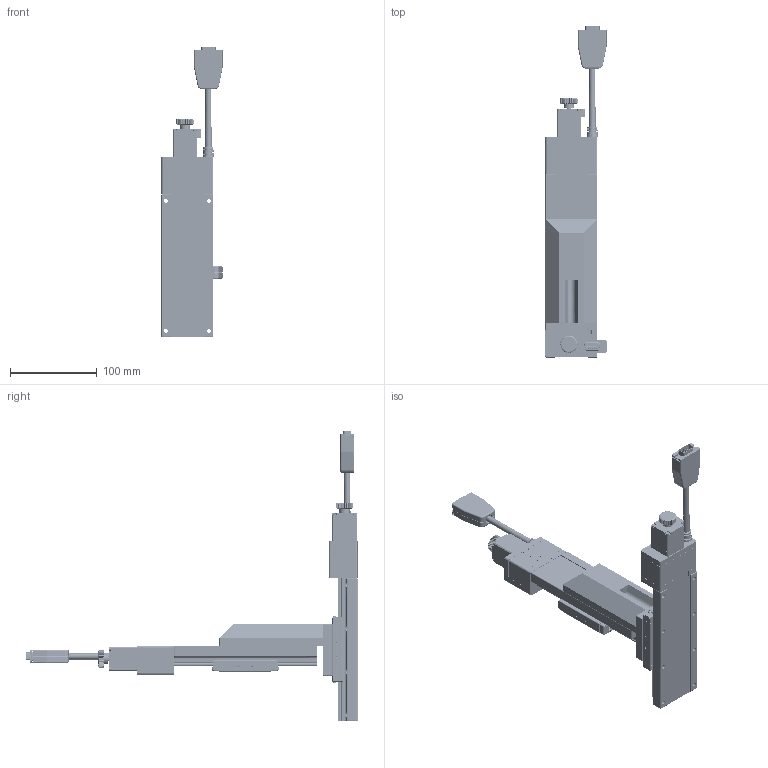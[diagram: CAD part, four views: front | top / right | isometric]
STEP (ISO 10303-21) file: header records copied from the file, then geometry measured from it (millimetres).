
FILE_DESCRIPTION (( 'STEP AP203' ), '1' );
FILE_NAME ('CXZN6075-S2?N.STEP', '2023-10-02T06:54:18', ( '' ), ( '' ), 'SwSTEP 2.0', 'SolidWorks 2019', '' );
FILE_SCHEMA (( 'CONFIG_CONTROL_DESIGN' ));
Length unit declared in the file: millimetre
Products named in the file (8): CXN6075-S2?N.STEP; Group2^CZLN6075-S2_N_GMT.STEP_GMT; CZLN6075-S2?N.STEP; Group1^CXN6075-S2_N(2023_s__)_defeature_GMT.STEP_GMT; CXN60-2_GMT.STEP_GMT; Group2^CXN6075-S2_N(2023_s__)_defeature_GMT.STEP_GMT; CXZN6075-S2?N; Group1^CZLN6075-S2_N_GMT.STEP_GMT
Assembly tree (7 placements, depth 3):
  CXZN6075-S2?N
    CXN6075-S2?N.STEP
      Group1^CXN6075-S2_N(2023_s__)_defeature_GMT.STEP_GMT
      Group2^CXN6075-S2_N(2023_s__)_defeature_GMT.STEP_GMT
    CZLN6075-S2?N.STEP
      Group1^CZLN6075-S2_N_GMT.STEP_GMT
      Group2^CZLN6075-S2_N_GMT.STEP_GMT
      CXN60-2_GMT.STEP_GMT
Bounding box: 70.5 x 383.1 x 335.6 mm (x, y, z)
Volume: 78666.9 mm3; surface area: 238815.3 mm2
Topology: 27 solids, 64 shells, 8435 faces, 22249 edges, 13849 vertices
Faces by surface type: plane 3336, cylinder 2487, cone 972, torus 834, bspline 538, sphere 268
Entity records: 315034 total; most frequent: CARTESIAN_POINT 132817, ORIENTED_EDGE 43540, DIRECTION 29288, EDGE_CURVE 21931, VERTEX_POINT 13848, B_SPLINE_CURVE_WITH_KNOTS 13017, AXIS2_PLACEMENT_3D 12681, EDGE_LOOP 8888
